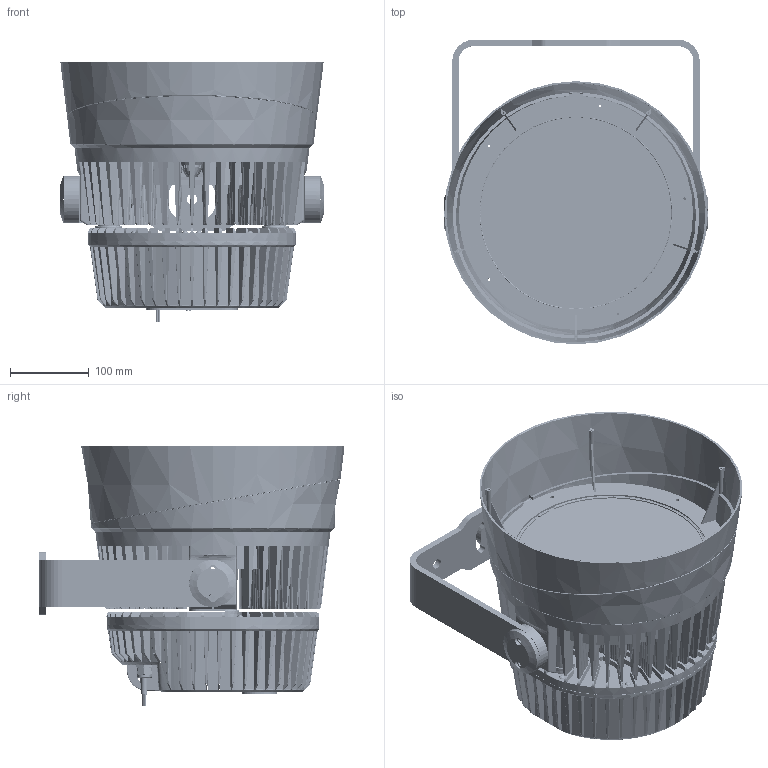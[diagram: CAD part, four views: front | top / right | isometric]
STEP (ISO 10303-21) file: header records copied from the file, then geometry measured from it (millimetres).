
FILE_DESCRIPTION (( 'STEP AP203' ), '1' );
FILE_NAME ('ew200-snoot-faces.STEP', '2016-01-18T07:19:16', ( 'Martin Gruppen A/S' ), ( 'Martin Gruppen A/S' ), 'SwSTEP 2.0', 'SolidWorks 2014', '' );
FILE_SCHEMA (( 'CONFIG_CONTROL_DESIGN' ));
Products named in the file (1): ew200-snoot-faces
Bounding box: 334.04 x 387.02 x 329 mm (x, y, z)
Surface area: 1371288 mm2 (no closed solid volume)
Topology: 0 solids, 691 shells, 6040 faces, 27047 edges, 21294 vertices
Faces by surface type: bspline 3753, plane 1186, cylinder 864, cone 230, torus 7
Entity records: 392042 total; most frequent: CARTESIAN_POINT 235386, ORIENTED_EDGE 37251, EDGE_CURVE 27031, VERTEX_POINT 21294, B_SPLINE_CURVE_WITH_KNOTS 20592, DIRECTION 13180, EDGE_LOOP 6654, ADVANCED_FACE 6040
